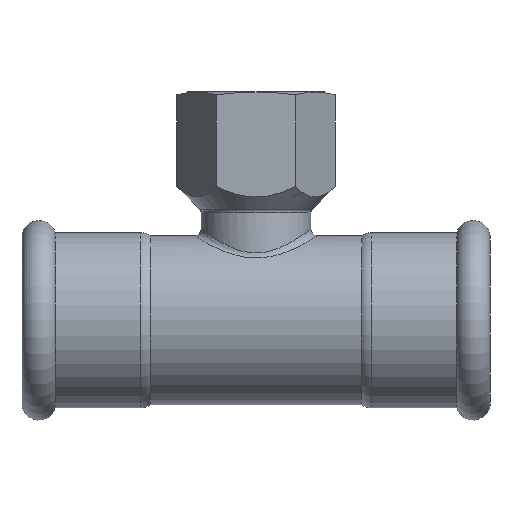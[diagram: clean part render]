
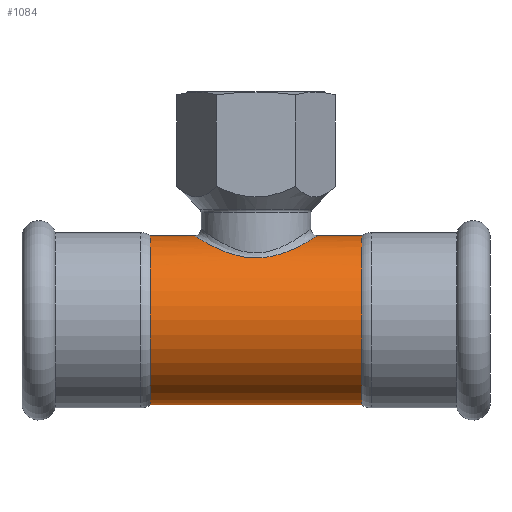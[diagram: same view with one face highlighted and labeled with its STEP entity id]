
A CAD part, front view. The second image highlights one B-rep face of the part: STEP entity #1084.
In plain terms, the highlighted cylindrical face has radius 18.5 mm (diameter 37 mm), a full revolution.
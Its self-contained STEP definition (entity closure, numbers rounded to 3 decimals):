
#20=B_SPLINE_CURVE_WITH_KNOTS('',3,(#2230,#2231,#2232,#2233,#2234,#2235,
#2236,#2237,#2238,#2239,#2240,#2241,#2242,#2243,#2244,#2245,#2246,#2247,
#2248,#2249,#2250,#2251,#2252),.UNSPECIFIED.,.T.,.F.,(4,1,1,1,1,1,1,1,1,
1,1,1,1,1,1,1,1,1,1,1,4),(-7.512,-7.244,-6.975,
-6.439,-5.902,-5.634,-5.366,
-4.65,-4.293,-3.935,-3.577,
-3.488,-3.219,-2.862,-2.146,
-1.789,-1.431,-1.073,-0.537,
-0.268,0.),.UNSPECIFIED.);
#75=FACE_BOUND('',#274,.T.);
#112=LINE('',#2264,#146);
#146=VECTOR('',#1558,18.5);
#169=CYLINDRICAL_SURFACE('',#1238,18.5);
#215=FACE_OUTER_BOUND('',#273,.T.);
#273=EDGE_LOOP('',(#929,#930,#931,#932,#933,#934,#935,#936));
#274=EDGE_LOOP('',(#937));
#369=CIRCLE('',#1239,18.5);
#370=CIRCLE('',#1240,18.5);
#371=CIRCLE('',#1241,18.5);
#372=CIRCLE('',#1242,18.5);
#373=CIRCLE('',#1243,18.5);
#374=CIRCLE('',#1244,18.5);
#490=VERTEX_POINT('',#2194);
#495=VERTEX_POINT('',#2258);
#496=VERTEX_POINT('',#2259);
#497=VERTEX_POINT('',#2261);
#498=VERTEX_POINT('',#2263);
#499=VERTEX_POINT('',#2265);
#500=VERTEX_POINT('',#2267);
#650=EDGE_CURVE('',#490,#490,#20,.T.);
#653=EDGE_CURVE('',#495,#496,#369,.T.);
#654=EDGE_CURVE('',#497,#495,#370,.T.);
#655=EDGE_CURVE('',#497,#498,#112,.T.);
#656=EDGE_CURVE('',#498,#499,#371,.T.);
#657=EDGE_CURVE('',#499,#500,#372,.T.);
#658=EDGE_CURVE('',#500,#498,#373,.T.);
#659=EDGE_CURVE('',#496,#497,#374,.T.);
#929=ORIENTED_EDGE('',*,*,#653,.F.);
#930=ORIENTED_EDGE('',*,*,#654,.F.);
#931=ORIENTED_EDGE('',*,*,#655,.T.);
#932=ORIENTED_EDGE('',*,*,#656,.T.);
#933=ORIENTED_EDGE('',*,*,#657,.T.);
#934=ORIENTED_EDGE('',*,*,#658,.T.);
#935=ORIENTED_EDGE('',*,*,#655,.F.);
#936=ORIENTED_EDGE('',*,*,#659,.F.);
#937=ORIENTED_EDGE('',*,*,#650,.F.);
#1084=ADVANCED_FACE('',(#215,#75),#169,.T.);
#1238=AXIS2_PLACEMENT_3D('',#2257,#1552,#1553);
#1239=AXIS2_PLACEMENT_3D('',#2260,#1554,#1555);
#1240=AXIS2_PLACEMENT_3D('',#2262,#1556,#1557);
#1241=AXIS2_PLACEMENT_3D('',#2266,#1559,#1560);
#1242=AXIS2_PLACEMENT_3D('',#2268,#1561,#1562);
#1243=AXIS2_PLACEMENT_3D('',#2269,#1563,#1564);
#1244=AXIS2_PLACEMENT_3D('',#2270,#1565,#1566);
#1552=DIRECTION('center_axis',(1.,0.,0.));
#1553=DIRECTION('ref_axis',(0.,1.,0.));
#1554=DIRECTION('center_axis',(1.,0.,0.));
#1555=DIRECTION('ref_axis',(0.,1.,0.));
#1556=DIRECTION('center_axis',(1.,0.,0.));
#1557=DIRECTION('ref_axis',(0.,1.,0.));
#1558=DIRECTION('',(-1.,0.,0.));
#1559=DIRECTION('center_axis',(1.,0.,0.));
#1560=DIRECTION('ref_axis',(0.,1.,0.));
#1561=DIRECTION('center_axis',(1.,0.,0.));
#1562=DIRECTION('ref_axis',(0.,1.,0.));
#1563=DIRECTION('center_axis',(1.,0.,0.));
#1564=DIRECTION('ref_axis',(0.,1.,0.));
#1565=DIRECTION('center_axis',(1.,0.,0.));
#1566=DIRECTION('ref_axis',(0.,1.,0.));
#2194=CARTESIAN_POINT('',(0.,12.488,13.65));
#2230=CARTESIAN_POINT('Ctrl Pts',(0.,12.488,13.65));
#2231=CARTESIAN_POINT('Ctrl Pts',(-1.047,12.488,13.65));
#2232=CARTESIAN_POINT('Ctrl Pts',(-3.139,12.261,13.863));
#2233=CARTESIAN_POINT('Ctrl Pts',(-6.948,10.973,14.949));
#2234=CARTESIAN_POINT('Ctrl Pts',(-10.804,8.138,16.847));
#2235=CARTESIAN_POINT('Ctrl Pts',(-13.129,3.876,18.269));
#2236=CARTESIAN_POINT('Ctrl Pts',(-13.625,0.002,
18.576));
#2237=CARTESIAN_POINT('Ctrl Pts',(-13.042,-4.535,18.221));
#2238=CARTESIAN_POINT('Ctrl Pts',(-10.356,-8.632,16.555));
#2239=CARTESIAN_POINT('Ctrl Pts',(-6.05,-11.357,14.646));
#2240=CARTESIAN_POINT('Ctrl Pts',(-2.141,-12.537,13.613));
#2241=CARTESIAN_POINT('Ctrl Pts',(1.07,-12.535,13.606));
#2242=CARTESIAN_POINT('Ctrl Pts',(3.772,-12.046,14.047));
#2243=CARTESIAN_POINT('Ctrl Pts',(6.32,-11.185,14.763));
#2244=CARTESIAN_POINT('Ctrl Pts',(10.354,-8.633,16.557));
#2245=CARTESIAN_POINT('Ctrl Pts',(13.224,-4.26,18.331));
#2246=CARTESIAN_POINT('Ctrl Pts',(13.682,0.996,18.613));
#2247=CARTESIAN_POINT('Ctrl Pts',(12.698,4.771,17.997));
#2248=CARTESIAN_POINT('Ctrl Pts',(10.29,8.508,16.593));
#2249=CARTESIAN_POINT('Ctrl Pts',(6.948,10.977,14.949));
#2250=CARTESIAN_POINT('Ctrl Pts',(3.139,12.259,13.863));
#2251=CARTESIAN_POINT('Ctrl Pts',(1.047,12.488,13.65));
#2252=CARTESIAN_POINT('Ctrl Pts',(0.,12.488,13.65));
#2257=CARTESIAN_POINT('Origin',(18.55,0.,0.));
#2258=CARTESIAN_POINT('',(23.15,18.5,0.));
#2259=CARTESIAN_POINT('',(23.15,0.,18.5));
#2260=CARTESIAN_POINT('Origin',(23.15,0.,0.));
#2261=CARTESIAN_POINT('',(23.15,-18.5,0.));
#2262=CARTESIAN_POINT('Origin',(23.15,0.,0.));
#2263=CARTESIAN_POINT('',(-23.15,-18.5,0.));
#2264=CARTESIAN_POINT('',(18.55,-18.5,0.));
#2265=CARTESIAN_POINT('',(-23.15,18.5,0.));
#2266=CARTESIAN_POINT('Origin',(-23.15,0.,0.));
#2267=CARTESIAN_POINT('',(-23.15,0.,18.5));
#2268=CARTESIAN_POINT('Origin',(-23.15,0.,0.));
#2269=CARTESIAN_POINT('Origin',(-23.15,0.,0.));
#2270=CARTESIAN_POINT('Origin',(23.15,0.,0.));
